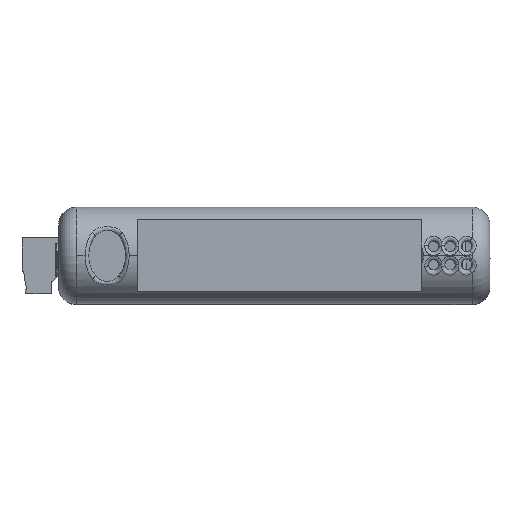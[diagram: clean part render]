
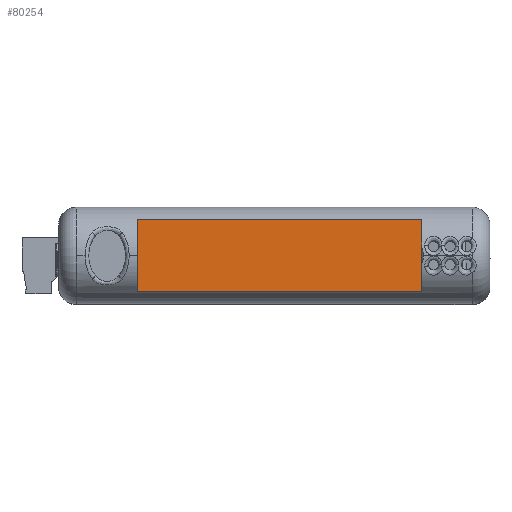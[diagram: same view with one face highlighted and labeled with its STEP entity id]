
A CAD part, top view. The second image highlights one B-rep face of the part: STEP entity #80254.
In plain terms, the highlighted planar face has unit normal (0, 0, 1).
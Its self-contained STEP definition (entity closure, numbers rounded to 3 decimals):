
#56460 = AXIS2_PLACEMENT_3D ( 'NONE', #144524, #144559, #144560 ) ;
#80254 = ADVANCED_FACE ( 'NONE', ( #141668 ), #144541, .T. ) ;
#80999 = EDGE_LOOP ( 'NONE', ( #109392, #109393, #109394, #109395 ) ) ;
#100483 = EDGE_CURVE ( 'NONE', #105407, #105405, #134495, .T. ) ;
#100510 = EDGE_CURVE ( 'NONE', #105407, #105415, #134508, .T. ) ;
#100515 = EDGE_CURVE ( 'NONE', #105415, #105413, #134510, .T. ) ;
#100518 = EDGE_CURVE ( 'NONE', #105405, #105413, #134512, .T. ) ;
#105405 = VERTEX_POINT ( 'NONE', #152466 ) ;
#105407 = VERTEX_POINT ( 'NONE', #152467 ) ;
#105413 = VERTEX_POINT ( 'NONE', #152470 ) ;
#105415 = VERTEX_POINT ( 'NONE', #152471 ) ;
#109392 = ORIENTED_EDGE ( 'NONE', *, *, #100518, .T. ) ;
#109393 = ORIENTED_EDGE ( 'NONE', *, *, #100515, .F. ) ;
#109394 = ORIENTED_EDGE ( 'NONE', *, *, #100510, .F. ) ;
#109395 = ORIENTED_EDGE ( 'NONE', *, *, #100483, .T. ) ;
#134495 = LINE ( 'NONE', #137112, #134496 ) ;
#134496 = VECTOR ( 'NONE', #137115, 1000. ) ;
#134508 = LINE ( 'NONE', #137165, #134509 ) ;
#134509 = VECTOR ( 'NONE', #137167, 1000. ) ;
#134510 = LINE ( 'NONE', #137170, #134511 ) ;
#134511 = VECTOR ( 'NONE', #137172, 1000. ) ;
#134512 = LINE ( 'NONE', #137175, #134513 ) ;
#134513 = VECTOR ( 'NONE', #137176, 1000. ) ;
#137112 = CARTESIAN_POINT ( 'NONE',  ( -38., 23.5, 85. ) ) ;
#137115 = DIRECTION ( 'NONE',  ( 0., -1., 0. ) ) ;
#137165 = CARTESIAN_POINT ( 'NONE',  ( -38., 23.5, 85. ) ) ;
#137167 = DIRECTION ( 'NONE',  ( 1., 0., 0. ) ) ;
#137170 = CARTESIAN_POINT ( 'NONE',  ( 41., 23.5, 85. ) ) ;
#137172 = DIRECTION ( 'NONE',  ( 0., -1., 0. ) ) ;
#137175 = CARTESIAN_POINT ( 'NONE',  ( -38., 3.5, 85. ) ) ;
#137176 = DIRECTION ( 'NONE',  ( 1., 0., 0. ) ) ;
#141668 = FACE_OUTER_BOUND ( 'NONE', #80999, .T. ) ;
#144524 = CARTESIAN_POINT ( 'NONE',  ( -38., 23.5, 85. ) ) ;
#144541 = PLANE ( 'NONE',  #56460 ) ;
#144559 = DIRECTION ( 'NONE',  ( 0., 0., 1. ) ) ;
#144560 = DIRECTION ( 'NONE',  ( 1., 0., 0. ) ) ;
#152466 = CARTESIAN_POINT ( 'NONE',  ( -38., 3.5, 85. ) ) ;
#152467 = CARTESIAN_POINT ( 'NONE',  ( -38., 23.5, 85. ) ) ;
#152470 = CARTESIAN_POINT ( 'NONE',  ( 41., 3.5, 85. ) ) ;
#152471 = CARTESIAN_POINT ( 'NONE',  ( 41., 23.5, 85. ) ) ;
